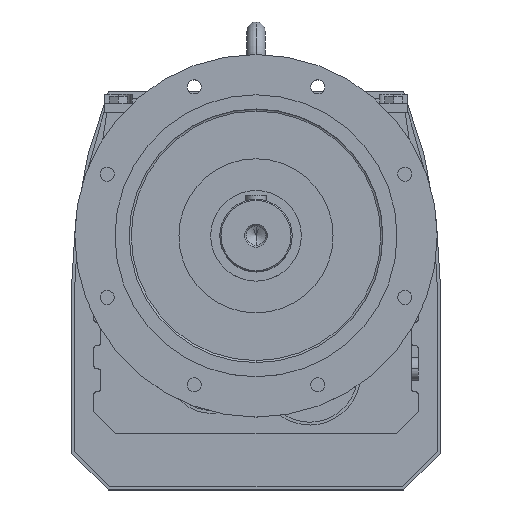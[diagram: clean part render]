
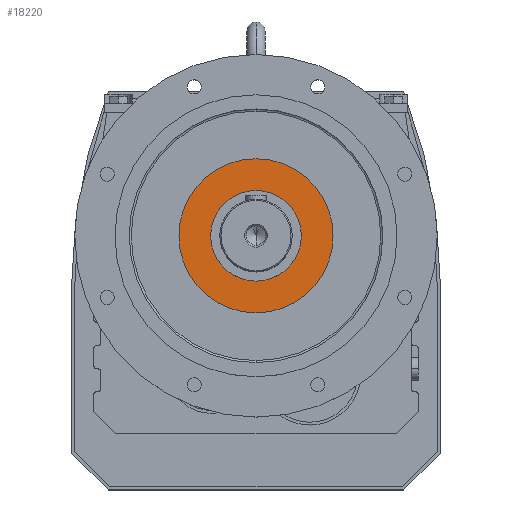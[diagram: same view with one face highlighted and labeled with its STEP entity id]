
A CAD part, top view. The second image highlights one B-rep face of the part: STEP entity #18220.
In plain terms, the highlighted planar face has unit normal (0, 0, 1).
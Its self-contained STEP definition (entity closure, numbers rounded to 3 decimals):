
#11072 = CYLINDRICAL_SURFACE('',#11073,95.681);
#11073 = AXIS2_PLACEMENT_3D('',#11074,#11075,#11076);
#11074 = CARTESIAN_POINT('',(0.,25.1,589.));
#11075 = DIRECTION('',(0.,0.,1.));
#11076 = DIRECTION('',(0.,-1.,0.));
#11125 = CYLINDRICAL_SURFACE('',#11126,95.681);
#11126 = AXIS2_PLACEMENT_3D('',#11127,#11128,#11129);
#11127 = CARTESIAN_POINT('',(0.,25.1,589.));
#11128 = DIRECTION('',(0.,0.,1.));
#11129 = DIRECTION('',(0.,-1.,0.));
#14536 = EDGE_CURVE('',#14537,#14539,#14541,.T.);
#14537 = VERTEX_POINT('',#14538);
#14538 = CARTESIAN_POINT('',(0.,-70.581,402.));
#14539 = VERTEX_POINT('',#14540);
#14540 = CARTESIAN_POINT('',(0.,120.781,402.));
#14541 = SURFACE_CURVE('',#14542,(#14547,#14576),.PCURVE_S1.);
#14542 = CIRCLE('',#14543,95.681);
#14543 = AXIS2_PLACEMENT_3D('',#14544,#14545,#14546);
#14544 = CARTESIAN_POINT('',(0.,25.1,402.));
#14545 = DIRECTION('',(0.,0.,-1.));
#14546 = DIRECTION('',(-1.,0.,0.));
#14547 = PCURVE('',#11125,#14548);
#14548 = DEFINITIONAL_REPRESENTATION('',(#14549),#14575);
#14549 = B_SPLINE_CURVE_WITH_KNOTS('',3,(#14550,#14551,#14552,#14553,
    #14554,#14555,#14556,#14557,#14558,#14559,#14560,#14561,#14562,
    #14563,#14564,#14565,#14566,#14567,#14568,#14569,#14570,#14571,
    #14572,#14573,#14574),.UNSPECIFIED.,.F.,.F.,(4,1,1,1,1,1,1,1,1,1,1,1
    ,1,1,1,1,1,1,1,1,1,1,4),(4.712,4.855,
    4.998,5.141,5.284,5.426,
    5.569,5.712,5.855,5.998,
    6.14,6.283,6.426,6.569,
    6.712,6.854,6.997,7.14,
    7.283,7.426,7.568,7.711,
    7.854),.QUASI_UNIFORM_KNOTS.);
#14550 = CARTESIAN_POINT('',(6.283,-187.));
#14551 = CARTESIAN_POINT('',(6.236,-187.));
#14552 = CARTESIAN_POINT('',(6.14,-187.));
#14553 = CARTESIAN_POINT('',(5.998,-187.));
#14554 = CARTESIAN_POINT('',(5.855,-187.));
#14555 = CARTESIAN_POINT('',(5.712,-187.));
#14556 = CARTESIAN_POINT('',(5.569,-187.));
#14557 = CARTESIAN_POINT('',(5.426,-187.));
#14558 = CARTESIAN_POINT('',(5.284,-187.));
#14559 = CARTESIAN_POINT('',(5.141,-187.));
#14560 = CARTESIAN_POINT('',(4.998,-187.));
#14561 = CARTESIAN_POINT('',(4.855,-187.));
#14562 = CARTESIAN_POINT('',(4.712,-187.));
#14563 = CARTESIAN_POINT('',(4.57,-187.));
#14564 = CARTESIAN_POINT('',(4.427,-187.));
#14565 = CARTESIAN_POINT('',(4.284,-187.));
#14566 = CARTESIAN_POINT('',(4.141,-187.));
#14567 = CARTESIAN_POINT('',(3.998,-187.));
#14568 = CARTESIAN_POINT('',(3.856,-187.));
#14569 = CARTESIAN_POINT('',(3.713,-187.));
#14570 = CARTESIAN_POINT('',(3.57,-187.));
#14571 = CARTESIAN_POINT('',(3.427,-187.));
#14572 = CARTESIAN_POINT('',(3.284,-187.));
#14573 = CARTESIAN_POINT('',(3.189,-187.));
#14574 = CARTESIAN_POINT('',(3.142,-187.));
#14575 = ( GEOMETRIC_REPRESENTATION_CONTEXT(2) 
PARAMETRIC_REPRESENTATION_CONTEXT() REPRESENTATION_CONTEXT('2D SPACE',''
  ) );
#14576 = PCURVE('',#14577,#14582);
#14577 = PLANE('',#14578);
#14578 = AXIS2_PLACEMENT_3D('',#14579,#14580,#14581);
#14579 = CARTESIAN_POINT('',(-41.274,9.674,402.));
#14580 = DIRECTION('',(0.,0.,-1.));
#14581 = DIRECTION('',(-1.,0.,0.));
#14582 = DEFINITIONAL_REPRESENTATION('',(#14583),#14587);
#14583 = CIRCLE('',#14584,95.681);
#14584 = AXIS2_PLACEMENT_2D('',#14585,#14586);
#14585 = CARTESIAN_POINT('',(-41.274,15.426));
#14586 = DIRECTION('',(1.,0.));
#14587 = ( GEOMETRIC_REPRESENTATION_CONTEXT(2) 
PARAMETRIC_REPRESENTATION_CONTEXT() REPRESENTATION_CONTEXT('2D SPACE',''
  ) );
#14634 = EDGE_CURVE('',#14539,#14537,#14635,.T.);
#14635 = SURFACE_CURVE('',#14636,(#14641,#14670),.PCURVE_S1.);
#14636 = CIRCLE('',#14637,95.681);
#14637 = AXIS2_PLACEMENT_3D('',#14638,#14639,#14640);
#14638 = CARTESIAN_POINT('',(0.,25.1,402.));
#14639 = DIRECTION('',(0.,0.,-1.));
#14640 = DIRECTION('',(-1.,0.,0.));
#14641 = PCURVE('',#11072,#14642);
#14642 = DEFINITIONAL_REPRESENTATION('',(#14643),#14669);
#14643 = B_SPLINE_CURVE_WITH_KNOTS('',3,(#14644,#14645,#14646,#14647,
    #14648,#14649,#14650,#14651,#14652,#14653,#14654,#14655,#14656,
    #14657,#14658,#14659,#14660,#14661,#14662,#14663,#14664,#14665,
    #14666,#14667,#14668),.UNSPECIFIED.,.F.,.F.,(4,1,1,1,1,1,1,1,1,1,1,1
    ,1,1,1,1,1,1,1,1,1,1,4),(1.571,1.714,
    1.856,1.999,2.142,2.285,
    2.428,2.57,2.713,2.856,
    2.999,3.142,3.284,3.427,
    3.57,3.713,3.856,3.998,
    4.141,4.284,4.427,4.57,
    4.712),.QUASI_UNIFORM_KNOTS.);
#14644 = CARTESIAN_POINT('',(3.142,-187.));
#14645 = CARTESIAN_POINT('',(3.094,-187.));
#14646 = CARTESIAN_POINT('',(2.999,-187.));
#14647 = CARTESIAN_POINT('',(2.856,-187.));
#14648 = CARTESIAN_POINT('',(2.713,-187.));
#14649 = CARTESIAN_POINT('',(2.57,-187.));
#14650 = CARTESIAN_POINT('',(2.428,-187.));
#14651 = CARTESIAN_POINT('',(2.285,-187.));
#14652 = CARTESIAN_POINT('',(2.142,-187.));
#14653 = CARTESIAN_POINT('',(1.999,-187.));
#14654 = CARTESIAN_POINT('',(1.856,-187.));
#14655 = CARTESIAN_POINT('',(1.714,-187.));
#14656 = CARTESIAN_POINT('',(1.571,-187.));
#14657 = CARTESIAN_POINT('',(1.428,-187.));
#14658 = CARTESIAN_POINT('',(1.285,-187.));
#14659 = CARTESIAN_POINT('',(1.142,-187.));
#14660 = CARTESIAN_POINT('',(1.,-187.));
#14661 = CARTESIAN_POINT('',(0.857,-187.));
#14662 = CARTESIAN_POINT('',(0.714,-187.));
#14663 = CARTESIAN_POINT('',(0.571,-187.));
#14664 = CARTESIAN_POINT('',(0.428,-187.));
#14665 = CARTESIAN_POINT('',(0.286,-187.));
#14666 = CARTESIAN_POINT('',(0.143,-187.));
#14667 = CARTESIAN_POINT('',(0.048,-187.));
#14668 = CARTESIAN_POINT('',(0.,-187.));
#14669 = ( GEOMETRIC_REPRESENTATION_CONTEXT(2) 
PARAMETRIC_REPRESENTATION_CONTEXT() REPRESENTATION_CONTEXT('2D SPACE',''
  ) );
#14670 = PCURVE('',#14577,#14671);
#14671 = DEFINITIONAL_REPRESENTATION('',(#14672),#14676);
#14672 = CIRCLE('',#14673,95.681);
#14673 = AXIS2_PLACEMENT_2D('',#14674,#14675);
#14674 = CARTESIAN_POINT('',(-41.274,15.426));
#14675 = DIRECTION('',(1.,0.));
#14676 = ( GEOMETRIC_REPRESENTATION_CONTEXT(2) 
PARAMETRIC_REPRESENTATION_CONTEXT() REPRESENTATION_CONTEXT('2D SPACE',''
  ) );
#18220 = ADVANCED_FACE('',(#18221,#18287),#14577,.F.);
#18221 = FACE_BOUND('',#18222,.T.);
#18222 = EDGE_LOOP('',(#18223,#18257));
#18223 = ORIENTED_EDGE('',*,*,#18224,.F.);
#18224 = EDGE_CURVE('',#18225,#18227,#18229,.T.);
#18225 = VERTEX_POINT('',#18226);
#18226 = CARTESIAN_POINT('',(0.,-31.15,402.));
#18227 = VERTEX_POINT('',#18228);
#18228 = CARTESIAN_POINT('',(0.,81.35,402.));
#18229 = SURFACE_CURVE('',#18230,(#18235,#18246),.PCURVE_S1.);
#18230 = CIRCLE('',#18231,56.25);
#18231 = AXIS2_PLACEMENT_3D('',#18232,#18233,#18234);
#18232 = CARTESIAN_POINT('',(0.,25.1,402.));
#18233 = DIRECTION('',(0.,0.,1.));
#18234 = DIRECTION('',(-1.,0.,0.));
#18235 = PCURVE('',#14577,#18236);
#18236 = DEFINITIONAL_REPRESENTATION('',(#18237),#18245);
#18237 = ( BOUNDED_CURVE() B_SPLINE_CURVE(2,(#18238,#18239,#18240,#18241
    ,#18242,#18243,#18244),.UNSPECIFIED.,.F.,.F.) 
B_SPLINE_CURVE_WITH_KNOTS((1,2,2,2,2,1),(-2.094,0.,
    2.094,4.189,6.283,8.378),
.UNSPECIFIED.) CURVE() GEOMETRIC_REPRESENTATION_ITEM() 
RATIONAL_B_SPLINE_CURVE((1.,0.5,1.,0.5,1.,0.5,1.)) REPRESENTATION_ITEM(
  '') );
#18238 = CARTESIAN_POINT('',(14.976,15.426));
#18239 = CARTESIAN_POINT('',(14.976,-82.001));
#18240 = CARTESIAN_POINT('',(-69.399,-33.288));
#18241 = CARTESIAN_POINT('',(-153.774,15.426));
#18242 = CARTESIAN_POINT('',(-69.399,64.14));
#18243 = CARTESIAN_POINT('',(14.976,112.854));
#18244 = CARTESIAN_POINT('',(14.976,15.426));
#18245 = ( GEOMETRIC_REPRESENTATION_CONTEXT(2) 
PARAMETRIC_REPRESENTATION_CONTEXT() REPRESENTATION_CONTEXT('2D SPACE',''
  ) );
#18246 = PCURVE('',#18247,#18252);
#18247 = CYLINDRICAL_SURFACE('',#18248,56.25);
#18248 = AXIS2_PLACEMENT_3D('',#18249,#18250,#18251);
#18249 = CARTESIAN_POINT('',(0.,25.1,589.));
#18250 = DIRECTION('',(0.,0.,1.));
#18251 = DIRECTION('',(0.,-1.,0.));
#18252 = DEFINITIONAL_REPRESENTATION('',(#18253),#18256);
#18253 = B_SPLINE_CURVE_WITH_KNOTS('',1,(#18254,#18255),.UNSPECIFIED.,
  .F.,.F.,(2,2),(1.571,4.712),
  .PIECEWISE_BEZIER_KNOTS.);
#18254 = CARTESIAN_POINT('',(0.,-187.));
#18255 = CARTESIAN_POINT('',(3.142,-187.));
#18256 = ( GEOMETRIC_REPRESENTATION_CONTEXT(2) 
PARAMETRIC_REPRESENTATION_CONTEXT() REPRESENTATION_CONTEXT('2D SPACE',''
  ) );
#18257 = ORIENTED_EDGE('',*,*,#18258,.F.);
#18258 = EDGE_CURVE('',#18227,#18225,#18259,.T.);
#18259 = SURFACE_CURVE('',#18260,(#18265,#18276),.PCURVE_S1.);
#18260 = CIRCLE('',#18261,56.25);
#18261 = AXIS2_PLACEMENT_3D('',#18262,#18263,#18264);
#18262 = CARTESIAN_POINT('',(0.,25.1,402.));
#18263 = DIRECTION('',(0.,0.,1.));
#18264 = DIRECTION('',(-1.,0.,0.));
#18265 = PCURVE('',#14577,#18266);
#18266 = DEFINITIONAL_REPRESENTATION('',(#18267),#18275);
#18267 = ( BOUNDED_CURVE() B_SPLINE_CURVE(2,(#18268,#18269,#18270,#18271
    ,#18272,#18273,#18274),.UNSPECIFIED.,.F.,.F.) 
B_SPLINE_CURVE_WITH_KNOTS((1,2,2,2,2,1),(-2.094,0.,
    2.094,4.189,6.283,8.378),
.UNSPECIFIED.) CURVE() GEOMETRIC_REPRESENTATION_ITEM() 
RATIONAL_B_SPLINE_CURVE((1.,0.5,1.,0.5,1.,0.5,1.)) REPRESENTATION_ITEM(
  '') );
#18268 = CARTESIAN_POINT('',(14.976,15.426));
#18269 = CARTESIAN_POINT('',(14.976,-82.001));
#18270 = CARTESIAN_POINT('',(-69.399,-33.288));
#18271 = CARTESIAN_POINT('',(-153.774,15.426));
#18272 = CARTESIAN_POINT('',(-69.399,64.14));
#18273 = CARTESIAN_POINT('',(14.976,112.854));
#18274 = CARTESIAN_POINT('',(14.976,15.426));
#18275 = ( GEOMETRIC_REPRESENTATION_CONTEXT(2) 
PARAMETRIC_REPRESENTATION_CONTEXT() REPRESENTATION_CONTEXT('2D SPACE',''
  ) );
#18276 = PCURVE('',#18277,#18282);
#18277 = CYLINDRICAL_SURFACE('',#18278,56.25);
#18278 = AXIS2_PLACEMENT_3D('',#18279,#18280,#18281);
#18279 = CARTESIAN_POINT('',(0.,25.1,589.));
#18280 = DIRECTION('',(0.,0.,1.));
#18281 = DIRECTION('',(0.,-1.,0.));
#18282 = DEFINITIONAL_REPRESENTATION('',(#18283),#18286);
#18283 = B_SPLINE_CURVE_WITH_KNOTS('',1,(#18284,#18285),.UNSPECIFIED.,
  .F.,.F.,(2,2),(4.712,7.854),
  .PIECEWISE_BEZIER_KNOTS.);
#18284 = CARTESIAN_POINT('',(3.142,-187.));
#18285 = CARTESIAN_POINT('',(6.283,-187.));
#18286 = ( GEOMETRIC_REPRESENTATION_CONTEXT(2) 
PARAMETRIC_REPRESENTATION_CONTEXT() REPRESENTATION_CONTEXT('2D SPACE',''
  ) );
#18287 = FACE_BOUND('',#18288,.T.);
#18288 = EDGE_LOOP('',(#18289,#18290));
#18289 = ORIENTED_EDGE('',*,*,#14536,.F.);
#18290 = ORIENTED_EDGE('',*,*,#14634,.F.);
